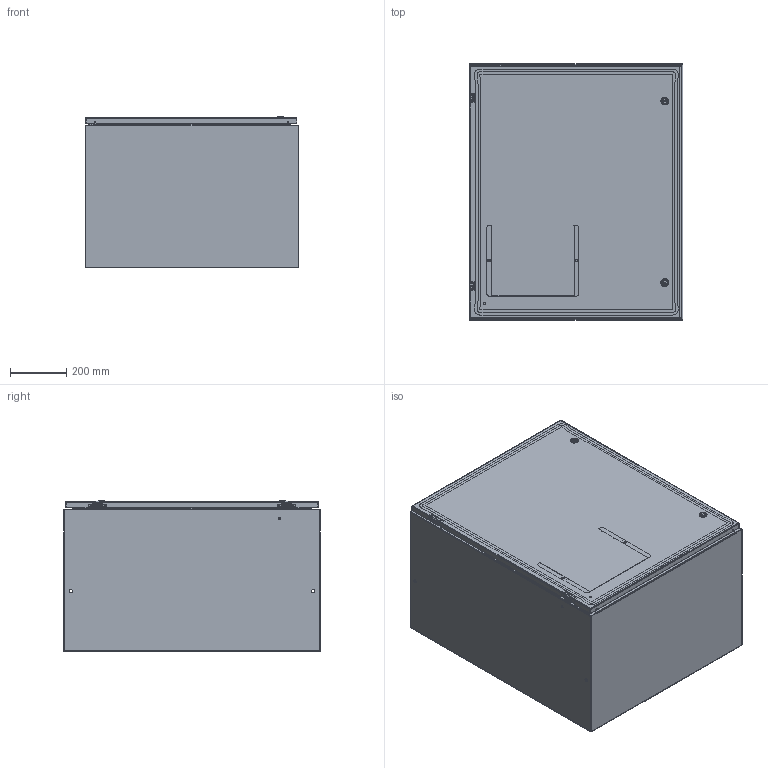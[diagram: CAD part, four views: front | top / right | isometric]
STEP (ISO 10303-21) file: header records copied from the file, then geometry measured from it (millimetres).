
FILE_DESCRIPTION((''),'2;1');
FILE_NAME('MODEL-305_ASM','2025-02-20T06:38:10',('joshi'),('SAGINAW CONTROL & ENGINEERING'),'CREO PARAMETRIC BY PTC INC, 2021284','CREO PARAMETRIC BY PTC INC, 2021284','');
FILE_SCHEMA(('AUTOMOTIVE_DESIGN { 1 0 10303 214 1 1 1 1 }'));
Length unit declared in the file: inch
Products named in the file (30): MODEL-305-BDY; MODEL-305-TP; MODEL-305-BTM; MODEL-305-DR; 100837; 100882; 111267; 100794_SHAFT; 100794_INSERT; 100794_CAM; 100794_NUT; 100794_SCREW; 100794_ASM; MODEL-305-DOOR-GASKET; 126391; 126391_ASM; 126393; 102483; 101226; 101376; 102140; 132757; MODEL-305-DOOR-ASSY_ASM; 101653; 122192; SUBPANEL; 100904; SUBPANEL-SUBASSEMBLY_ASM; 128336; MODEL-305_ASM
Assembly tree (55 placements, depth 4):
  MODEL-305_ASM
    MODEL-305-BDY
    MODEL-305-TP
    MODEL-305-BTM
    MODEL-305-DOOR-ASSY_ASM
      MODEL-305-DR
      100837  x3
      100882  x2
      111267
      100794_ASM  x2
        100794_SHAFT
        100794_INSERT
        100794_CAM
        100794_NUT
        100794_SCREW
      MODEL-305-DOOR-GASKET
      126391_ASM  x2
        126391
      126393  x2
      102483  x6
      101226  x2
      101376  x2
      102140  x2
      132757  x2
    100837
    101653  x6
    122192
    SUBPANEL-SUBASSEMBLY_ASM
      SUBPANEL
      100904  x6
    128336
Bounding box: 762 x 914.4 x 539.13 mm (x, y, z)
Volume: 8903320.4 mm3; surface area: 8233169.3 mm2
Topology: 55 solids, 55 shells, 3219 faces, 8100 edges, 5066 vertices
Faces by surface type: plane 1392, cylinder 893, bspline 472, torus 258, cone 132, sphere 72
Entity records: 86511 total; most frequent: CARTESIAN_POINT 24801, ORIENTED_EDGE 8872, DIRECTION 8420, PRESENTATION_STYLE_ASSIGNMENT 4634, EDGE_CURVE 4436, STYLED_ITEM 4359, CURVE_STYLE 4274, AXIS2_PLACEMENT_3D 3090
